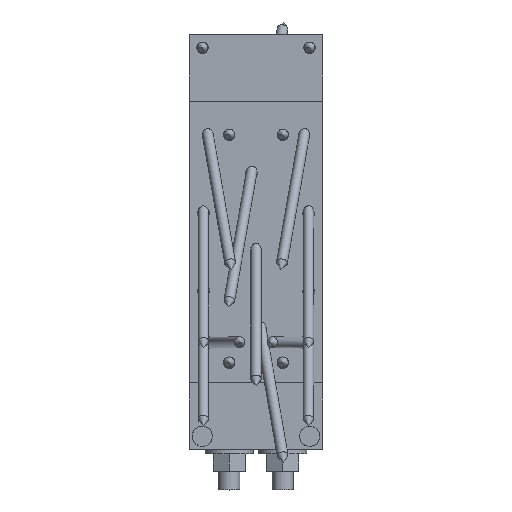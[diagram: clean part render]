
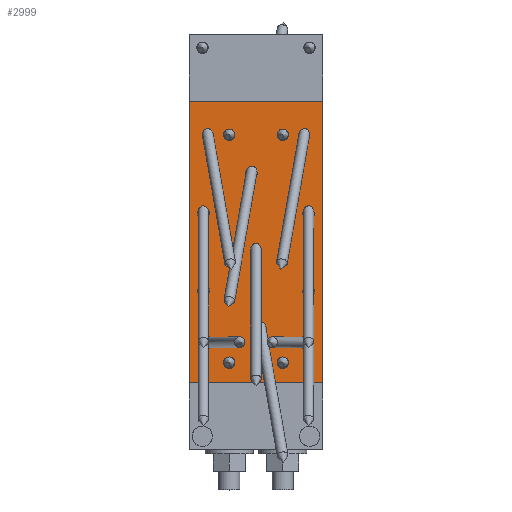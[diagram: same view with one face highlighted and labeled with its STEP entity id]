
A CAD part, top view. The second image highlights one B-rep face of the part: STEP entity #2999.
In plain terms, the highlighted planar face has unit normal (0, 0, 1) as drawn and (0, 0, -1) by its records, which use the part's own axes.
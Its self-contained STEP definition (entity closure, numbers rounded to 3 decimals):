
#307=CIRCLE('',#3488,4.25);
#308=CIRCLE('',#3489,4.25);
#309=CIRCLE('',#3490,4.25);
#310=CIRCLE('',#3491,4.25);
#400=ELLIPSE('',#3477,6.103,4.25);
#401=ELLIPSE('',#3478,6.103,4.25);
#402=ELLIPSE('',#3479,6.103,4.25);
#403=ELLIPSE('',#3480,6.103,4.25);
#404=ELLIPSE('',#3481,4.316,4.25);
#405=ELLIPSE('',#3482,4.316,4.25);
#406=ELLIPSE('',#3483,6.01,4.25);
#407=ELLIPSE('',#3484,6.01,4.25);
#408=ELLIPSE('',#3485,6.01,4.25);
#409=ELLIPSE('',#3486,6.01,4.25);
#410=ELLIPSE('',#3487,6.01,4.25);
#551=ORIENTED_EDGE('',*,*,#1250,.F.);
#552=ORIENTED_EDGE('',*,*,#1251,.F.);
#553=ORIENTED_EDGE('',*,*,#1252,.F.);
#554=ORIENTED_EDGE('',*,*,#1253,.F.);
#555=ORIENTED_EDGE('',*,*,#1254,.F.);
#556=ORIENTED_EDGE('',*,*,#1255,.F.);
#557=ORIENTED_EDGE('',*,*,#1256,.F.);
#558=ORIENTED_EDGE('',*,*,#1257,.T.);
#559=ORIENTED_EDGE('',*,*,#1258,.T.);
#560=ORIENTED_EDGE('',*,*,#1259,.F.);
#561=ORIENTED_EDGE('',*,*,#1260,.T.);
#562=ORIENTED_EDGE('',*,*,#1261,.F.);
#563=ORIENTED_EDGE('',*,*,#1262,.F.);
#564=ORIENTED_EDGE('',*,*,#1263,.F.);
#565=ORIENTED_EDGE('',*,*,#1264,.F.);
#566=ORIENTED_EDGE('',*,*,#1265,.F.);
#567=ORIENTED_EDGE('',*,*,#1266,.T.);
#568=ORIENTED_EDGE('',*,*,#1267,.T.);
#569=ORIENTED_EDGE('',*,*,#1248,.F.);
#1248=EDGE_CURVE('',#1589,#1590,#1869,.T.);
#1250=EDGE_CURVE('',#1591,#1591,#400,.T.);
#1251=EDGE_CURVE('',#1592,#1592,#401,.T.);
#1252=EDGE_CURVE('',#1593,#1593,#402,.T.);
#1253=EDGE_CURVE('',#1594,#1594,#403,.T.);
#1254=EDGE_CURVE('',#1595,#1595,#404,.T.);
#1255=EDGE_CURVE('',#1596,#1596,#405,.T.);
#1256=EDGE_CURVE('',#1597,#1597,#406,.T.);
#1257=EDGE_CURVE('',#1598,#1598,#407,.F.);
#1258=EDGE_CURVE('',#1599,#1599,#408,.F.);
#1259=EDGE_CURVE('',#1600,#1600,#409,.T.);
#1260=EDGE_CURVE('',#1601,#1601,#410,.F.);
#1261=EDGE_CURVE('',#1602,#1602,#307,.T.);
#1262=EDGE_CURVE('',#1603,#1603,#308,.T.);
#1263=EDGE_CURVE('',#1604,#1604,#309,.T.);
#1264=EDGE_CURVE('',#1605,#1605,#310,.T.);
#1265=EDGE_CURVE('',#1606,#1589,#1871,.T.);
#1266=EDGE_CURVE('',#1606,#1607,#1872,.T.);
#1267=EDGE_CURVE('',#1607,#1590,#1873,.T.);
#1589=VERTEX_POINT('',#4927);
#1590=VERTEX_POINT('',#4929);
#1591=VERTEX_POINT('',#4933);
#1592=VERTEX_POINT('',#4935);
#1593=VERTEX_POINT('',#4937);
#1594=VERTEX_POINT('',#4939);
#1595=VERTEX_POINT('',#4941);
#1596=VERTEX_POINT('',#4943);
#1597=VERTEX_POINT('',#4945);
#1598=VERTEX_POINT('',#4947);
#1599=VERTEX_POINT('',#4949);
#1600=VERTEX_POINT('',#4951);
#1601=VERTEX_POINT('',#4953);
#1602=VERTEX_POINT('',#4955);
#1603=VERTEX_POINT('',#4957);
#1604=VERTEX_POINT('',#4959);
#1605=VERTEX_POINT('',#4961);
#1606=VERTEX_POINT('',#4963);
#1607=VERTEX_POINT('',#4965);
#1869=LINE('',#4928,#2117);
#1871=LINE('',#4962,#2119);
#1872=LINE('',#4964,#2120);
#1873=LINE('',#4966,#2121);
#2117=VECTOR('',#3941,1000.);
#2119=VECTOR('',#3975,1000.);
#2120=VECTOR('',#3976,1000.);
#2121=VECTOR('',#3977,1000.);
#2304=EDGE_LOOP('',(#551));
#2305=EDGE_LOOP('',(#552));
#2306=EDGE_LOOP('',(#553));
#2307=EDGE_LOOP('',(#554));
#2308=EDGE_LOOP('',(#555));
#2309=EDGE_LOOP('',(#556));
#2310=EDGE_LOOP('',(#557));
#2311=EDGE_LOOP('',(#558));
#2312=EDGE_LOOP('',(#559));
#2313=EDGE_LOOP('',(#560));
#2314=EDGE_LOOP('',(#561));
#2315=EDGE_LOOP('',(#562));
#2316=EDGE_LOOP('',(#563));
#2317=EDGE_LOOP('',(#564));
#2318=EDGE_LOOP('',(#565));
#2319=EDGE_LOOP('',(#566,#567,#568,#569));
#2608=FACE_BOUND('',#2304,.T.);
#2609=FACE_BOUND('',#2305,.T.);
#2610=FACE_BOUND('',#2306,.T.);
#2611=FACE_BOUND('',#2307,.T.);
#2612=FACE_BOUND('',#2308,.T.);
#2613=FACE_BOUND('',#2309,.T.);
#2614=FACE_BOUND('',#2310,.T.);
#2615=FACE_BOUND('',#2311,.T.);
#2616=FACE_BOUND('',#2312,.T.);
#2617=FACE_BOUND('',#2313,.T.);
#2618=FACE_BOUND('',#2314,.T.);
#2619=FACE_BOUND('',#2315,.T.);
#2620=FACE_BOUND('',#2316,.T.);
#2621=FACE_BOUND('',#2317,.T.);
#2622=FACE_BOUND('',#2318,.T.);
#2623=FACE_BOUND('',#2319,.T.);
#2897=PLANE('',#3476);
#2999=ADVANCED_FACE('',(#2608,#2609,#2610,#2611,#2612,#2613,#2614,#2615,
#2616,#2617,#2618,#2619,#2620,#2621,#2622,#2623),#2897,.T.);
#3476=AXIS2_PLACEMENT_3D('',#4931,#3943,#3944);
#3477=AXIS2_PLACEMENT_3D('',#4932,#3945,#3946);
#3478=AXIS2_PLACEMENT_3D('',#4934,#3947,#3948);
#3479=AXIS2_PLACEMENT_3D('',#4936,#3949,#3950);
#3480=AXIS2_PLACEMENT_3D('',#4938,#3951,#3952);
#3481=AXIS2_PLACEMENT_3D('',#4940,#3953,#3954);
#3482=AXIS2_PLACEMENT_3D('',#4942,#3955,#3956);
#3483=AXIS2_PLACEMENT_3D('',#4944,#3957,#3958);
#3484=AXIS2_PLACEMENT_3D('',#4946,#3959,#3960);
#3485=AXIS2_PLACEMENT_3D('',#4948,#3961,#3962);
#3486=AXIS2_PLACEMENT_3D('',#4950,#3963,#3964);
#3487=AXIS2_PLACEMENT_3D('',#4952,#3965,#3966);
#3488=AXIS2_PLACEMENT_3D('',#4954,#3967,#3968);
#3489=AXIS2_PLACEMENT_3D('',#4956,#3969,#3970);
#3490=AXIS2_PLACEMENT_3D('',#4958,#3971,#3972);
#3491=AXIS2_PLACEMENT_3D('',#4960,#3973,#3974);
#3941=DIRECTION('',(0.,-1.,0.));
#3943=DIRECTION('',(0.,0.,-1.));
#3944=DIRECTION('',(-1.,0.,0.));
#3945=DIRECTION('',(0.,0.,-1.));
#3946=DIRECTION('',(-0.171,-0.985,0.));
#3947=DIRECTION('',(0.,0.,-1.));
#3948=DIRECTION('',(0.171,-0.985,0.));
#3949=DIRECTION('',(0.,0.,-1.));
#3950=DIRECTION('',(0.171,-0.985,0.));
#3951=DIRECTION('',(0.,0.,-1.));
#3952=DIRECTION('',(-0.171,-0.985,0.));
#3953=DIRECTION('',(0.,0.,-1.));
#3954=DIRECTION('',(-1.,0.,0.));
#3955=DIRECTION('',(0.,0.,-1.));
#3956=DIRECTION('',(1.,0.,0.));
#3957=DIRECTION('',(0.,0.,-1.));
#3958=DIRECTION('',(0.,1.,0.));
#3959=DIRECTION('',(0.,0.,-1.));
#3960=DIRECTION('',(0.,-1.,0.));
#3961=DIRECTION('',(0.,0.,-1.));
#3962=DIRECTION('',(0.,-1.,0.));
#3963=DIRECTION('',(0.,0.,-1.));
#3964=DIRECTION('',(0.,1.,0.));
#3965=DIRECTION('',(0.,0.,-1.));
#3966=DIRECTION('',(0.,-1.,0.));
#3967=DIRECTION('',(0.,0.,-1.));
#3968=DIRECTION('',(-1.,0.,0.));
#3969=DIRECTION('',(0.,0.,-1.));
#3970=DIRECTION('',(-1.,0.,0.));
#3971=DIRECTION('',(0.,0.,-1.));
#3972=DIRECTION('',(-1.,0.,0.));
#3973=DIRECTION('',(0.,0.,-1.));
#3974=DIRECTION('',(-1.,0.,0.));
#3975=DIRECTION('',(-1.,0.,0.));
#3976=DIRECTION('',(0.,-1.,0.));
#3977=DIRECTION('',(-1.,0.,0.));
#4927=CARTESIAN_POINT('',(0.,230.,0.));
#4928=CARTESIAN_POINT('',(0.,250.,0.));
#4929=CARTESIAN_POINT('',(0.,20.,0.));
#4931=CARTESIAN_POINT('',(0.,250.,0.));
#4932=CARTESIAN_POINT('',(14.277,46.309,0.));
#4933=CARTESIAN_POINT('',(13.232,40.296,0.));
#4934=CARTESIAN_POINT('',(46.473,74.31,0.));
#4935=CARTESIAN_POINT('',(47.518,68.297,0.));
#4936=CARTESIAN_POINT('',(85.723,46.309,0.));
#4937=CARTESIAN_POINT('',(86.768,40.296,0.));
#4938=CARTESIAN_POINT('',(53.527,190.311,0.));
#4939=CARTESIAN_POINT('',(52.482,184.298,0.));
#4940=CARTESIAN_POINT('',(14.277,200.,0.));
#4941=CARTESIAN_POINT('',(9.961,200.,0.));
#4942=CARTESIAN_POINT('',(85.723,200.,0.));
#4943=CARTESIAN_POINT('',(90.039,200.,0.));
#4944=CARTESIAN_POINT('',(10.75,104.,0.));
#4945=CARTESIAN_POINT('',(10.75,110.01,0.));
#4946=CARTESIAN_POINT('',(89.25,104.,0.));
#4947=CARTESIAN_POINT('',(89.25,97.99,0.));
#4948=CARTESIAN_POINT('',(50.,132.,0.));
#4949=CARTESIAN_POINT('',(50.,125.99,0.));
#4950=CARTESIAN_POINT('',(10.75,162.,0.));
#4951=CARTESIAN_POINT('',(10.75,168.01,0.));
#4952=CARTESIAN_POINT('',(89.25,162.,0.));
#4953=CARTESIAN_POINT('',(89.25,155.99,0.));
#4954=CARTESIAN_POINT('',(30.,45.,0.));
#4955=CARTESIAN_POINT('',(25.75,45.,0.));
#4956=CARTESIAN_POINT('',(70.,45.,0.));
#4957=CARTESIAN_POINT('',(65.75,45.,0.));
#4958=CARTESIAN_POINT('',(70.,215.,0.));
#4959=CARTESIAN_POINT('',(65.75,215.,0.));
#4960=CARTESIAN_POINT('',(30.,215.,0.));
#4961=CARTESIAN_POINT('',(25.75,215.,0.));
#4962=CARTESIAN_POINT('',(100.,230.,0.));
#4963=CARTESIAN_POINT('',(100.,230.,0.));
#4964=CARTESIAN_POINT('',(100.,250.,0.));
#4965=CARTESIAN_POINT('',(100.,20.,0.));
#4966=CARTESIAN_POINT('',(357.205,20.,0.));
